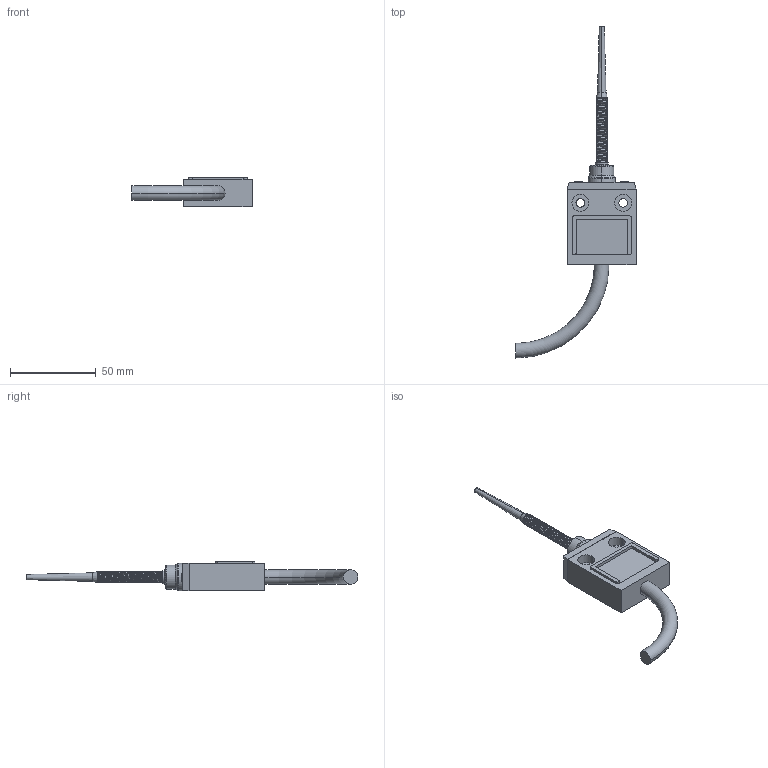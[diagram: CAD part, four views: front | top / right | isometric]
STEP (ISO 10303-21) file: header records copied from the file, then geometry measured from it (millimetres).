
FILE_DESCRIPTION (( 'STEP AP203' ), '1' );
FILE_NAME ('TZ-3166.STEP', '2019-05-24T13:55:17', ( '' ), ( '' ), 'SwSTEP 2.0', 'SolidWorks 2012', '' );
FILE_SCHEMA (( 'CONFIG_CONTROL_DESIGN' ));
Length unit declared in the file: millimetre
Products named in the file (1): TZ-3166
Bounding box: 70 x 193.35 x 17.3 mm (x, y, z)
Volume: 36373 mm3; surface area: 13183.8 mm2
Topology: 1 solids, 1 shells, 138 faces, 335 edges, 214 vertices
Faces by surface type: plane 82, cylinder 32, torus 12, cone 8, bspline 4
Entity records: 16669 total; most frequent: CARTESIAN_POINT 13342, DIRECTION 676, ORIENTED_EDGE 670, EDGE_CURVE 335, AXIS2_PLACEMENT_3D 242, VERTEX_POINT 214, VECTOR 192, LINE 192
